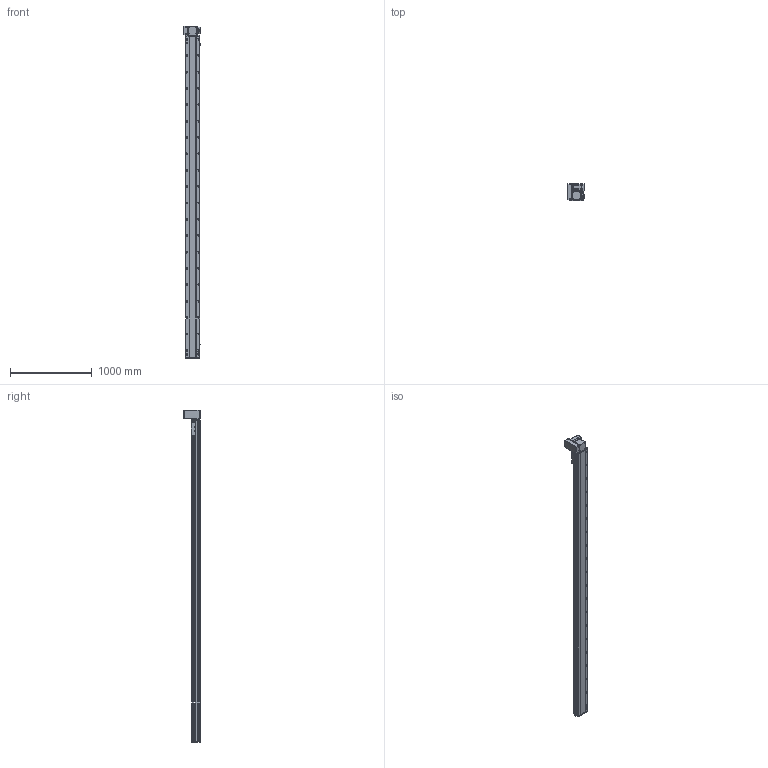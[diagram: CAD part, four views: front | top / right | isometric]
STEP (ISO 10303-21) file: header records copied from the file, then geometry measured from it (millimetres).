
FILE_DESCRIPTION (( 'STEP AP214' ), '1' );
FILE_NAME ('RTB17S-XX-3650-LW-M75-C4.STEP', '2025-12-12T01:23:48', ( '' ), ( '' ), 'SwSTEP 2.0', 'SolidWorks 2018', '' );
FILE_SCHEMA (( 'AUTOMOTIVE_DESIGN' ));
Length unit declared in the file: millimetre
Products named in the file (15): RTB22S-GY-005P^RTB17S-LW-々湍釱蚾饜-750W_RTB17S-XX-XX-LW-M75-C4; RTB17S-L-007奻裔^RTB17S-XX-XX-LW-M75-C4; RTB22S-GY-017P^RTB17S-LW-々湍釱蚾饜-750W_RTB17S-XX-XX-LW-M75-C4; RTB22S-GY-008-M75--萇儂啣^RTB17S-LW-々湍釱蚾饜-750W_RTB17S-XX-XX-LW-M75-C4; EE672^RTB17S-XX-XX-LW-M75-C4; RTB17S-賑釱^RTB17S-XX-XX-LW-M75-C4; RTB17S-L-004-賑釱^RTB17S-賑釱_RTB17S-XX-XX-LW-M75-C4; 750W萇儂^RTB17S-XX-XX-LW-M75-C4; RTB17-R-011菁釱^RTB17S-XX-XX-LW-M75-C4; RTB17S-XX-3650-LW-M75-C4; RTH13-BL-012覜茼え俋离^RTB17S-賑釱_RTB17S-XX-XX-LW-M75-C4; RTB17S-L-014-T20-P75--々湍釱^RTB17S-LW-々湍釱蚾饜-750W_RTB17S-XX-XX-LW-M75-C4; RTB17S-LW-々湍釱蚾饜-750W^RTB17S-XX-XX-LW-M75-C4; RTB17S-L-001-耜醱啣^RTB17S-XX-XX-LW-M75-C4; RTB22S-GY-018P^RTB17S-LW-々湍釱蚾饜-750W_RTB17S-XX-XX-LW-M75-C4
Assembly tree (17 placements, depth 3):
  RTB17S-XX-3650-LW-M75-C4
    RTB17-R-011菁釱^RTB17S-XX-XX-LW-M75-C4
    EE672^RTB17S-XX-XX-LW-M75-C4  x3
    RTB17S-L-001-耜醱啣^RTB17S-XX-XX-LW-M75-C4
    RTB17S-賑釱^RTB17S-XX-XX-LW-M75-C4
      RTB17S-L-004-賑釱^RTB17S-賑釱_RTB17S-XX-XX-LW-M75-C4
      RTH13-BL-012覜茼え俋离^RTB17S-賑釱_RTB17S-XX-XX-LW-M75-C4
    RTB17S-L-007奻裔^RTB17S-XX-XX-LW-M75-C4
    750W萇儂^RTB17S-XX-XX-LW-M75-C4
    RTB17S-LW-々湍釱蚾饜-750W^RTB17S-XX-XX-LW-M75-C4
      RTB17S-L-014-T20-P75--々湍釱^RTB17S-LW-々湍釱蚾饜-750W_RTB17S-XX-XX-LW-M75-C4
      RTB22S-GY-005P^RTB17S-LW-々湍釱蚾饜-750W_RTB17S-XX-XX-LW-M75-C4
      RTB22S-GY-017P^RTB17S-LW-々湍釱蚾饜-750W_RTB17S-XX-XX-LW-M75-C4  x2
      RTB22S-GY-008-M75--萇儂啣^RTB17S-LW-々湍釱蚾饜-750W_RTB17S-XX-XX-LW-M75-C4
      RTB22S-GY-018P^RTB17S-LW-々湍釱蚾饜-750W_RTB17S-XX-XX-LW-M75-C4
Bounding box: 210.4 x 201.5 x 4057.5 mm (x, y, z)
Volume: 28761467.8 mm3; surface area: 5327790.1 mm2
Topology: 17 solids, 17 shells, 2313 faces, 6538 edges, 4238 vertices
Faces by surface type: plane 998, cylinder 899, bspline 294, cone 110, sphere 8, torus 4
Entity records: 68854 total; most frequent: CARTESIAN_POINT 20602, ORIENTED_EDGE 9920, DIRECTION 9122, EDGE_CURVE 4960, AXIS2_PLACEMENT_3D 3258, VERTEX_POINT 3242, LINE 2606, VECTOR 2606
